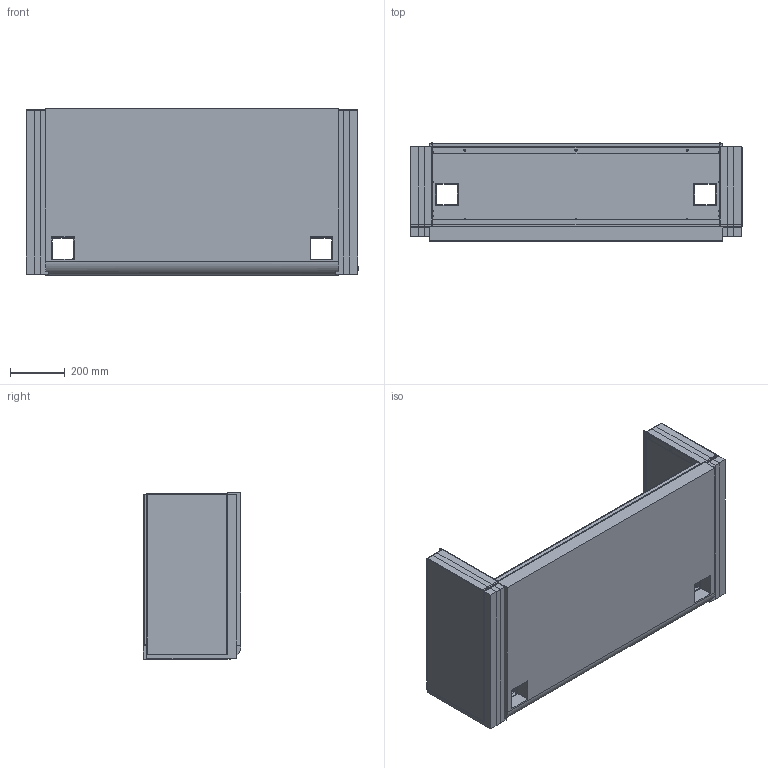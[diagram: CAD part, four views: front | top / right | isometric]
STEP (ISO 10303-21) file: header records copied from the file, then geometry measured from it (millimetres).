
FILE_DESCRIPTION(('CATIA V5 STEP Exchange','CAx-IF Rec.Pracs.--- Composite Materials ---3.4---2017-06-13'),'2;1');
FILE_NAME('C:\Users\MMAK\Documents\SmarTeam\WEBSITE CAD\LIJ\LIJ700.stp','2026-08-25T18:58:24+00:00',('none'),('none'),'CATIA Unofficial Packaging Version SP2','CATIA V5 STEP AP203 v2','none');
FILE_SCHEMA(('CONFIG_CONTROL_DESIGN'));
Products named in the file (1): 81123 2
Assembly tree (83 placements, depth 2):
  81123 2
    #63
    #526
    #989
    #1452
    #1915
    #2378
    #2841
    #3304
    #3767
    #4230
    #4693
    #5156
    #5619
    #8055
    #8518
    #8981
    #9444
    #11886
    #12349
    #12531
    #12994
    #13873
    #14336
    #15594
    #15776
    #19876
    #20339
    #20802
    #21265
    #21728
    #22191
    #25427
    #25890
    #26353
    #26816
    #29258
    #29721
    #30184
    #30647
    #35073
    #35536
    #35999
    #36462
    #39029
    #39492
    #39955
    #42946
    #43409
    #43872
    #44335
    #44798
    #45261
    #45724
    #46187
    #46650
    #47113
    #47576
    #48039
    #48502
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Bounding box: 1212.82 x 357.97 x 610.3 mm (x, y, z)
Volume: 90650505.1 mm3; surface area: 10500617.6 mm2
Topology: 83 solids, 83 shells, 2476 faces, 5618 edges, 3440 vertices
Faces by surface type: plane 1226, cylinder 970, torus 132, revolution 132, bspline 16
Entity records: 73349 total; most frequent: CARTESIAN_POINT 19590, ORIENTED_EDGE 11236, DIRECTION 8831, EDGE_CURVE 5618, AXIS2_PLACEMENT_3D 4109, VERTEX_POINT 3440, EDGE_LOOP 3042, VECTOR 2830
